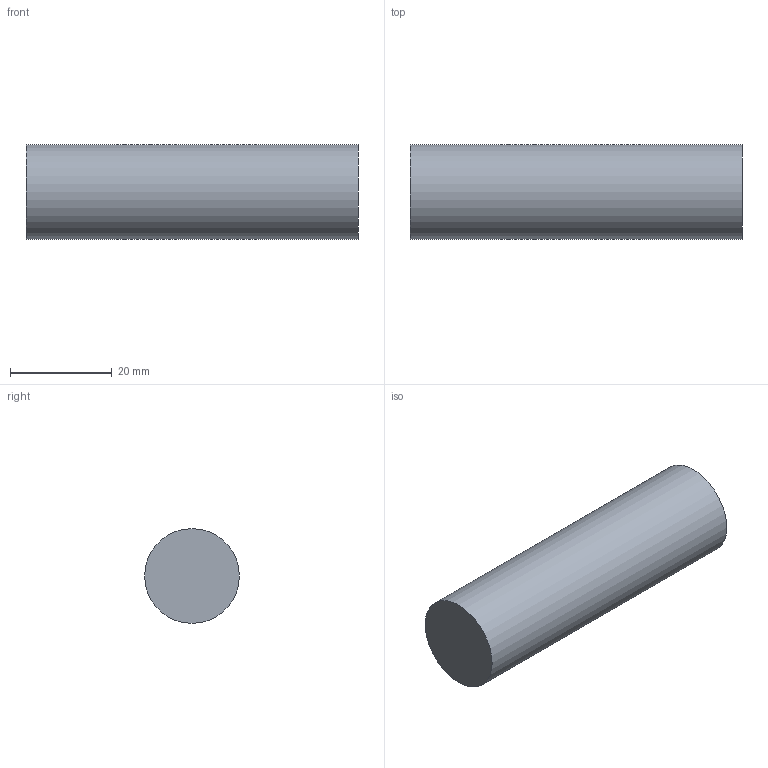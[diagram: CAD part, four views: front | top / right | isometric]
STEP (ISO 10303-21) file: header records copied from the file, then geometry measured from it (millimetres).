
FILE_DESCRIPTION(('Open CASCADE Model'),'2;1');
FILE_NAME('Open CASCADE Shape Model','2026-10-01T12:35:22',('Author'),( 'Open CASCADE'),'Open CASCADE STEP processor 7.8','Open CASCADE 7.8' ,'Unknown');
FILE_SCHEMA(('AUTOMOTIVE_DESIGN { 1 0 10303 214 1 1 1 1 }'));
Length unit declared in the file: millimetre
Products named in the file (2): E10_18650_cell_BA0199_provisional; E10_18650_cell_BA0199_provisional_solid
Assembly tree (1 placements, depth 2):
  E10_18650_cell_BA0199_provisional
    E10_18650_cell_BA0199_provisional_solid
Bounding box: 65.2 x 18.6 x 18.6 mm (x, y, z)
Volume: 17715.9 mm3; surface area: 4353.3 mm2
Topology: 1 solids, 1 shells, 3 faces, 3 edges, 2 vertices
Faces by surface type: plane 2, cylinder 1
Full cylindrical faces by diameter (mm): 18.6 x1
Entity records: 135 total; most frequent: DIRECTION 21, CARTESIAN_POINT 16, AXIS2_PLACEMENT_3D 7, ORIENTED_EDGE 6, PCURVE 6, DEFINITIONAL_REPRESENTATION 6, LINE 5, VECTOR 5
